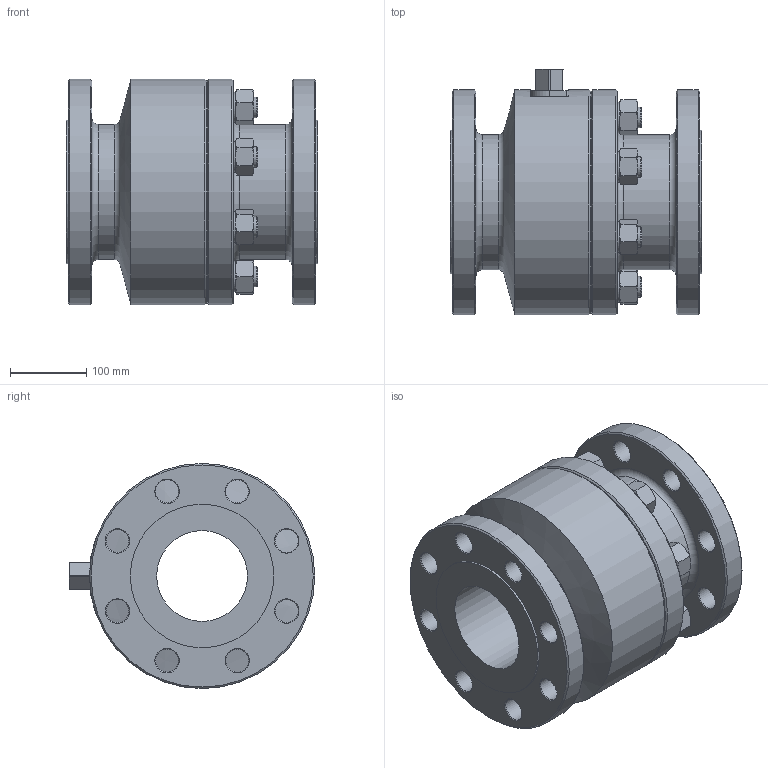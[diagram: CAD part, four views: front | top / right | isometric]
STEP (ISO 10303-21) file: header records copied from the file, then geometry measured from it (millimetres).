
FILE_DESCRIPTION((''),'2;1');
FILE_NAME('C:\Users\Bartek\Desktop\Nowy folder (2)\Nowy folder (22)\WK5b\WK5b DN125 PN63_Substitute_1.stp','2024-09-18T09:12:34',('Bartek'),(''),'Autodesk Inventor 2012','Autodesk Inventor 2012','');
FILE_SCHEMA(('AUTOMOTIVE_DESIGN { 1 0 10303 214 1 1 1 1 }'));
Length unit declared in the file: millimetre
Products named in the file (1): WK5b DN125 PN63_Substitute_1
Bounding box: 330 x 321.5 x 295 mm (x, y, z)
Volume: 13323852.9 mm3; surface area: 777421.9 mm2
Topology: 1 solids, 1 shells, 295 faces, 651 edges, 391 vertices
Faces by surface type: cone 144, plane 97, cylinder 50, torus 4
Full cylindrical faces by diameter (mm): 27 x8, 30 x16, 40 x8, 119 x1, 177 x2, 188 x2, 210 x1, 295 x4
Entity records: 7551 total; most frequent: CARTESIAN_POINT 1580, DIRECTION 1186, ORIENTED_EDGE 1066, AXIS2_PLACEMENT_3D 549, EDGE_CURVE 533, EDGE_LOOP 456, VERTEX_POINT 367, STYLED_ITEM 296
